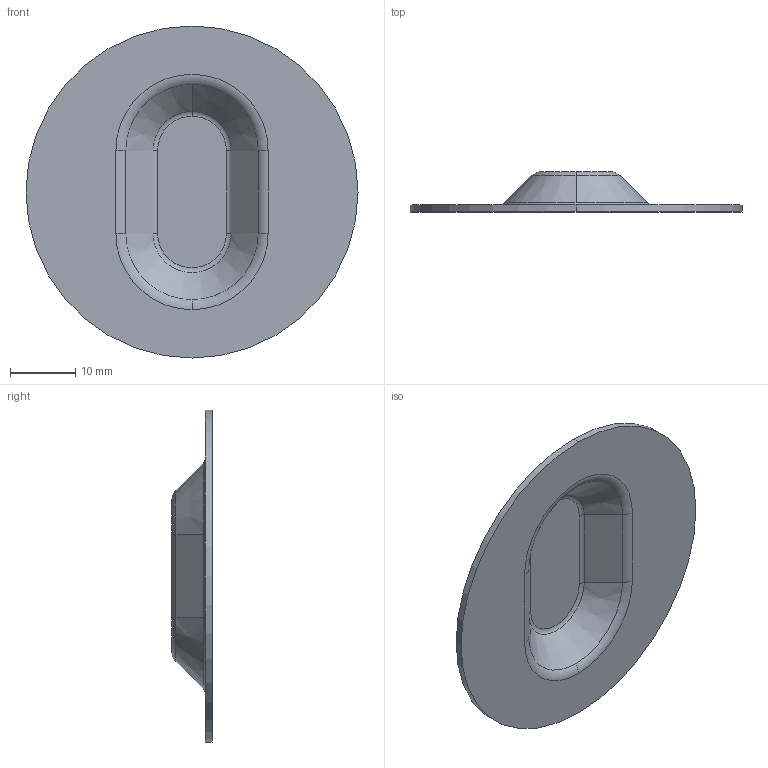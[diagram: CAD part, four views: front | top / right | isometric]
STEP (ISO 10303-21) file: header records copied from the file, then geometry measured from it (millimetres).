
FILE_DESCRIPTION (( 'STEP AP203' ), '1' );
FILE_NAME ('756700-20.STEP', '2024-11-18T14:25:23', ( '' ), ( '' ), 'SwSTEP 2.0', 'SolidWorks 2024', '' );
FILE_SCHEMA (( 'CONFIG_CONTROL_DESIGN' ));
Length unit declared in the file: inch
Products named in the file (1): 756700-20
Bounding box: 50.8 x 6.15 x 50.8 mm (x, y, z)
Volume: 2326.9 mm3; surface area: 4532.7 mm2
Topology: 1 solids, 1 shells, 36 faces, 78 edges, 46 vertices
Faces by surface type: torus 12, cylinder 10, plane 8, cone 6
Entity records: 1067 total; most frequent: DIRECTION 202, CARTESIAN_POINT 161, ORIENTED_EDGE 156, AXIS2_PLACEMENT_3D 87, EDGE_CURVE 78, CIRCLE 50, VERTEX_POINT 46, EDGE_LOOP 38
